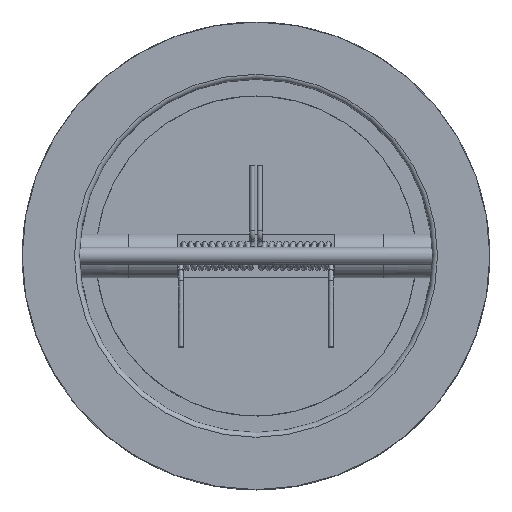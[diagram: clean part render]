
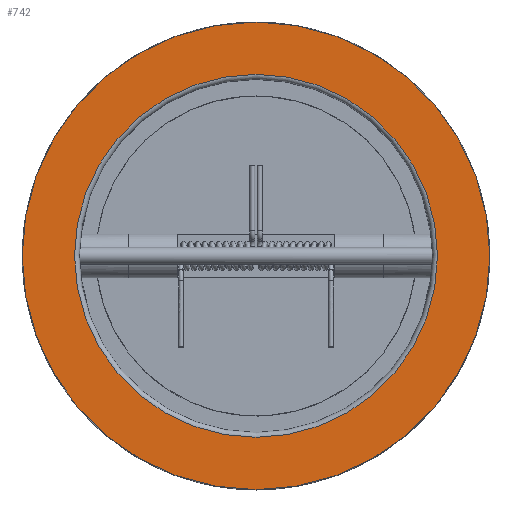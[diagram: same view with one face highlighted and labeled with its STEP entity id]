
A CAD part, top view. The second image highlights one B-rep face of the part: STEP entity #742.
In plain terms, the highlighted planar face has unit normal (0, 0, 1).
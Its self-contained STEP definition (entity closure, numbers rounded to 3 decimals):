
#742 = ADVANCED_FACE( '', ( #1596, #1597 ), #1598, .F. );
#1596 = FACE_BOUND( '', #8678, .T. );
#1597 = FACE_OUTER_BOUND( '', #8679, .T. );
#1598 = PLANE( '', #8680 );
#8678 = EDGE_LOOP( '', ( #11883 ) );
#8679 = EDGE_LOOP( '', ( #11884 ) );
#8680 = AXIS2_PLACEMENT_3D( '', #11885, #11886, #11887 );
#11883 = ORIENTED_EDGE( '', *, *, #13458, .T. );
#11884 = ORIENTED_EDGE( '', *, *, #12780, .F. );
#11885 = CARTESIAN_POINT( '', ( 0., 0., 35. ) );
#11886 = DIRECTION( '', ( 0., 0., -1. ) );
#11887 = DIRECTION( '', ( -1., 0., 0. ) );
#12780 = EDGE_CURVE( '', #13876, #13876, #13877, .T. );
#13458 = EDGE_CURVE( '', #14893, #14893, #14894, .T. );
#13876 = VERTEX_POINT( '', #16278 );
#13877 = CIRCLE( '', #16279, 96. );
#14893 = VERTEX_POINT( '', #20852 );
#14894 = CIRCLE( '', #20853, 74.5 );
#16278 = CARTESIAN_POINT( '', ( 96., 0., 35. ) );
#16279 = AXIS2_PLACEMENT_3D( '', #21803, #21804, #21805 );
#20852 = CARTESIAN_POINT( '', ( -74.5, 0., 35. ) );
#20853 = AXIS2_PLACEMENT_3D( '', #22007, #22008, #22009 );
#21803 = CARTESIAN_POINT( '', ( 0., 0., 35. ) );
#21804 = DIRECTION( '', ( 0., 0., -1. ) );
#21805 = DIRECTION( '', ( 1., 0., 0. ) );
#22007 = CARTESIAN_POINT( '', ( 0., 0., 35. ) );
#22008 = DIRECTION( '', ( 0., 0., -1. ) );
#22009 = DIRECTION( '', ( -1., 0., 0. ) );
